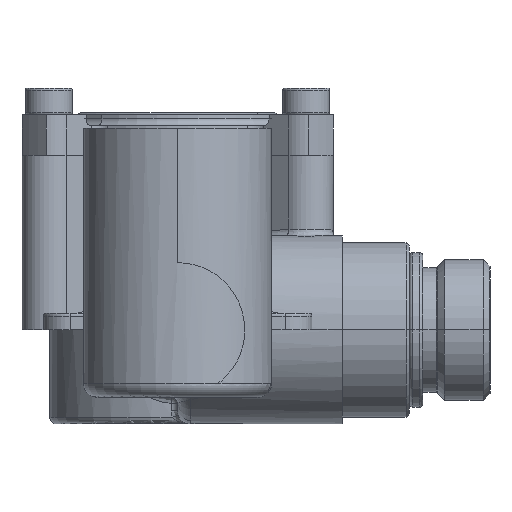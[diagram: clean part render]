
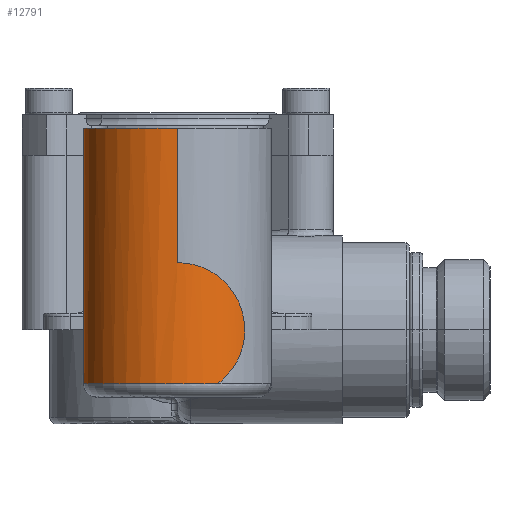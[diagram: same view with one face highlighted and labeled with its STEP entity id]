
A CAD part, front view. The second image highlights one B-rep face of the part: STEP entity #12791.
In plain terms, the highlighted cylindrical face has radius 14 mm (diameter 28 mm), a partial arc.
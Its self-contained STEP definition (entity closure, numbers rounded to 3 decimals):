
#3696=CARTESIAN_POINT('',(0.,-100.,44.));
#3697=DIRECTION('',(0.,0.,1.));
#3698=DIRECTION('',(0.,1.,0.));
#3699=AXIS2_PLACEMENT_3D('',#3696,#3697,#3698);
#3716=CARTESIAN_POINT('',(0.,-100.,6.));
#3717=DIRECTION('',(0.,0.,-1.));
#3718=DIRECTION('',(0.429,-0.904,0.));
#3719=AXIS2_PLACEMENT_3D('',#3716,#3717,#3718);
#3721=CARTESIAN_POINT('',(-10.267,-90.482,
14.));
#3722=CARTESIAN_POINT('',(-10.267,-90.482,
13.574));
#3723=CARTESIAN_POINT('',(-10.22,-90.432,
12.768));
#3724=CARTESIAN_POINT('',(-10.058,-90.26,
11.718));
#3725=CARTESIAN_POINT('',(-9.829,-90.028,
10.775));
#3726=CARTESIAN_POINT('',(-9.533,-89.744,
9.879));
#3727=CARTESIAN_POINT('',(-9.162,-89.409,
9.004));
#3728=CARTESIAN_POINT('',(-8.719,-89.041,
8.165));
#3729=CARTESIAN_POINT('',(-8.216,-88.658,
7.382));
#3730=CARTESIAN_POINT('',(-7.667,-88.279,
6.665));
#3731=CARTESIAN_POINT('',(-7.26,-88.027,
6.216));
#3732=CARTESIAN_POINT('',(-7.047,-87.903,
6.));
#3734=CARTESIAN_POINT('',(0.,-86.,25.));
#3735=CARTESIAN_POINT('',(-0.591,-86.,
25.));
#3736=CARTESIAN_POINT('',(-1.722,-86.073,
24.893));
#3737=CARTESIAN_POINT('',(-3.297,-86.367,
24.46));
#3738=CARTESIAN_POINT('',(-4.592,-86.756,
23.871));
#3739=CARTESIAN_POINT('',(-5.638,-87.172,
23.219));
#3740=CARTESIAN_POINT('',(-6.509,-87.594,
22.532));
#3741=CARTESIAN_POINT('',(-7.283,-88.033,
21.78));
#3742=CARTESIAN_POINT('',(-7.991,-88.495,
20.938));
#3743=CARTESIAN_POINT('',(-8.626,-88.965,
20.002));
#3744=CARTESIAN_POINT('',(-9.159,-89.405,
19.012));
#3745=CARTESIAN_POINT('',(-9.582,-89.788,
18.004));
#3746=CARTESIAN_POINT('',(-9.935,-90.133,
16.868));
#3747=CARTESIAN_POINT('',(-10.193,-90.402,
15.552));
#3748=CARTESIAN_POINT('',(-10.267,-90.482,
14.539));
#3749=CARTESIAN_POINT('',(-10.267,-90.482,
14.));
#3751=DIRECTION('',(0.,0.,1.));
#3752=VECTOR('',#3751,19.);
#3753=CARTESIAN_POINT('',(0.,-86.,25.));
#3754=LINE('',#3753,#3752);
#3770=CARTESIAN_POINT('',(0.,-114.,24.));
#3771=CARTESIAN_POINT('',(0.55,-114.,24.003));
#3772=CARTESIAN_POINT('',(1.663,-113.935,23.908));
#3773=CARTESIAN_POINT('',(3.347,-113.631,23.48));
#3774=CARTESIAN_POINT('',(5.019,-113.109,22.718));
#3775=CARTESIAN_POINT('',(6.594,-112.388,21.602));
#3776=CARTESIAN_POINT('',(7.946,-111.558,20.177));
#3777=CARTESIAN_POINT('',(8.97,-110.767,18.545));
#3778=CARTESIAN_POINT('',(9.62,-110.179,16.902));
#3779=CARTESIAN_POINT('',(9.96,-109.839,15.279));
#3780=CARTESIAN_POINT('',(10.038,-109.759,13.708));
#3781=CARTESIAN_POINT('',(9.866,-109.935,12.116));
#3782=CARTESIAN_POINT('',(9.421,-110.367,10.493));
#3783=CARTESIAN_POINT('',(8.63,-111.047,8.829));
#3784=CARTESIAN_POINT('',(7.463,-111.878,7.253));
#3785=CARTESIAN_POINT('',(6.522,-112.401,6.393));
#3786=CARTESIAN_POINT('',(5.999,-112.65,6.));
#3788=DIRECTION('',(0.,0.,1.));
#3789=VECTOR('',#3788,20.);
#3790=CARTESIAN_POINT('',(0.,-114.,24.));
#3791=LINE('',#3790,#3789);
#4927=CARTESIAN_POINT('',(-7.047,-87.903,
6.));
#6426=CARTESIAN_POINT('',(0.,-86.,44.));
#6427=CARTESIAN_POINT('',(0.,-114.,44.));
#6428=VERTEX_POINT('',#6426);
#6429=VERTEX_POINT('',#6427);
#6430=CARTESIAN_POINT('',(0.,-114.,24.));
#6431=VERTEX_POINT('',#6430);
#6722=VERTEX_POINT('',#3734);
#6723=VERTEX_POINT('',#3749);
#6931=VERTEX_POINT('',#4927);
#6933=CARTESIAN_POINT('',(5.999,-112.65,6.));
#6934=VERTEX_POINT('',#6933);
#12771=CARTESIAN_POINT('',(0.,-100.,4.));
#12772=DIRECTION('',(0.,0.,1.));
#12773=DIRECTION('',(0.,1.,0.));
#12774=AXIS2_PLACEMENT_3D('',#12771,#12772,#12773);
#12775=CYLINDRICAL_SURFACE('',#12774,14.);
#12777=ORIENTED_EDGE('',*,*,#12776,.T.);
#12779=ORIENTED_EDGE('',*,*,#12778,.F.);
#12781=ORIENTED_EDGE('',*,*,#12780,.F.);
#12783=ORIENTED_EDGE('',*,*,#12782,.T.);
#12784=ORIENTED_EDGE('',*,*,#12759,.T.);
#12786=ORIENTED_EDGE('',*,*,#12785,.F.);
#12788=ORIENTED_EDGE('',*,*,#12787,.T.);
#12789=EDGE_LOOP('',(#12777,#12779,#12781,#12783,#12784,#12786,#12788));
#12790=FACE_OUTER_BOUND('',#12789,.F.);
#12791=ADVANCED_FACE('',(#12790),#12775,.T.);
#3700=CIRCLE('',#3699,14.);
#3720=CIRCLE('',#3719,14.);
#3733=B_SPLINE_CURVE_WITH_KNOTS('',3,(#3721,#3722,#3723,#3724,#3725,#3726,#3727,
#3728,#3729,#3730,#3731,#3732),.UNSPECIFIED.,.F.,.F.,(4,1,1,1,1,1,1,1,1,4),
(0.,0.111,0.222,0.333,0.444,
0.556,0.667,0.778,0.889,1.),
.UNSPECIFIED.);
#3750=B_SPLINE_CURVE_WITH_KNOTS('',3,(#3734,#3735,#3736,#3737,#3738,#3739,#3740,
#3741,#3742,#3743,#3744,#3745,#3746,#3747,#3748,#3749),.UNSPECIFIED.,.F.,.F.,(4,
1,1,1,1,1,1,1,1,1,1,1,1,4),(0.,0.077,0.154,
0.231,0.308,0.385,0.462,
0.538,0.615,0.692,0.769,
0.846,0.923,1.),.UNSPECIFIED.);
#3787=B_SPLINE_CURVE_WITH_KNOTS('',3,(#3770,#3771,#3772,#3773,#3774,#3775,#3776,
#3777,#3778,#3779,#3780,#3781,#3782,#3783,#3784,#3785,#3786),.UNSPECIFIED.,.F.,
.F.,(4,1,1,1,1,1,1,1,1,1,1,1,1,1,4),(0.,0.071,0.143,
0.214,0.286,0.357,0.429,0.5,
0.571,0.643,0.714,0.786,
0.857,0.929,1.),.UNSPECIFIED.);
#12759=EDGE_CURVE('',#6428,#6429,#3700,.T.);
#12776=EDGE_CURVE('',#6934,#6931,#3720,.T.);
#12778=EDGE_CURVE('',#6723,#6931,#3733,.T.);
#12780=EDGE_CURVE('',#6722,#6723,#3750,.T.);
#12782=EDGE_CURVE('',#6722,#6428,#3754,.T.);
#12785=EDGE_CURVE('',#6431,#6429,#3791,.T.);
#12787=EDGE_CURVE('',#6431,#6934,#3787,.T.);
